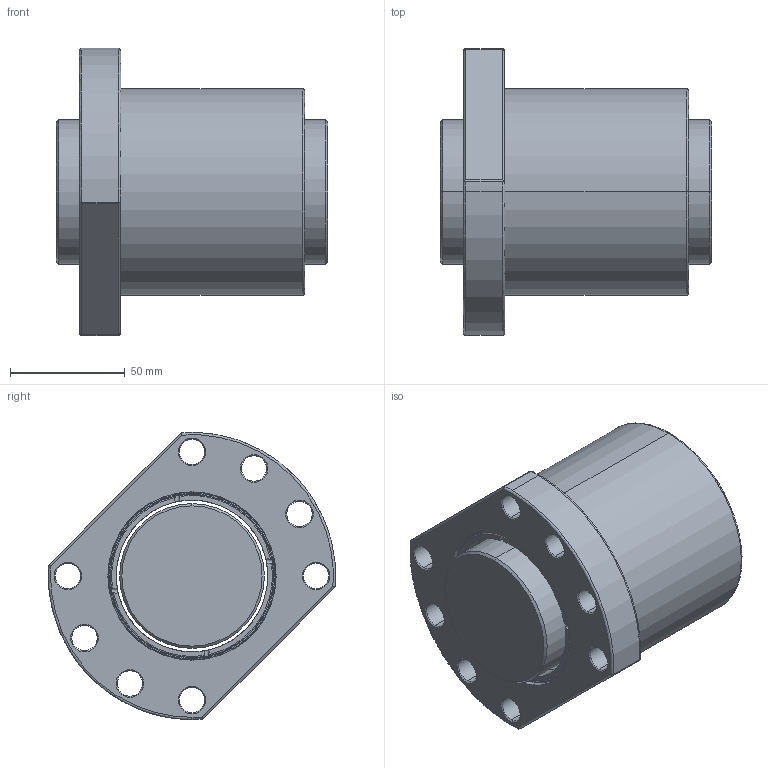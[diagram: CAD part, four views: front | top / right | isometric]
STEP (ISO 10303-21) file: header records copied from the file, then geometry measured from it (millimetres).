
FILE_DESCRIPTION (( 'STEP AP203' ), '1' );
FILE_NAME ('SFUR06310T4D-C.STEP', '2020-06-16T07:39:34', ( '' ), ( '' ), 'SwSTEP 2.0', 'SolidWorks 2013', '' );
FILE_SCHEMA (( 'CONFIG_CONTROL_DESIGN' ));
Length unit declared in the file: millimetre
Products named in the file (1): SFUR06310T4D-C
Bounding box: 118 x 124.8 x 125 mm (x, y, z)
Volume: 710818.5 mm3; surface area: 104202.7 mm2
Topology: 2 solids, 2 shells, 143 faces, 347 edges, 204 vertices
Faces by surface type: cylinder 59, bspline 34, plane 30, cone 20
Entity records: 6253 total; most frequent: CARTESIAN_POINT 3035, ORIENTED_EDGE 678, DIRECTION 621, EDGE_CURVE 339, AXIS2_PLACEMENT_3D 254, VERTEX_POINT 204, EDGE_LOOP 169, CIRCLE 144
